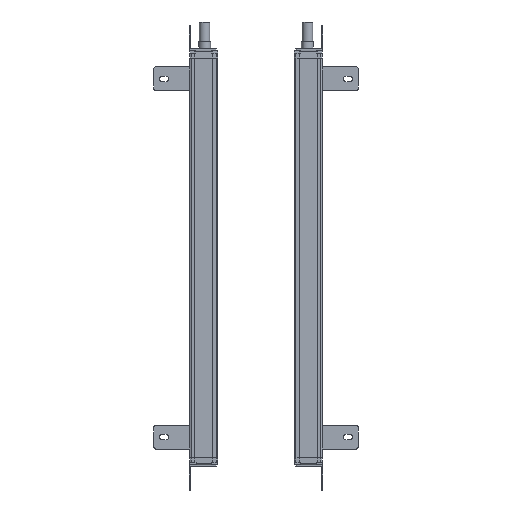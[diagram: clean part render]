
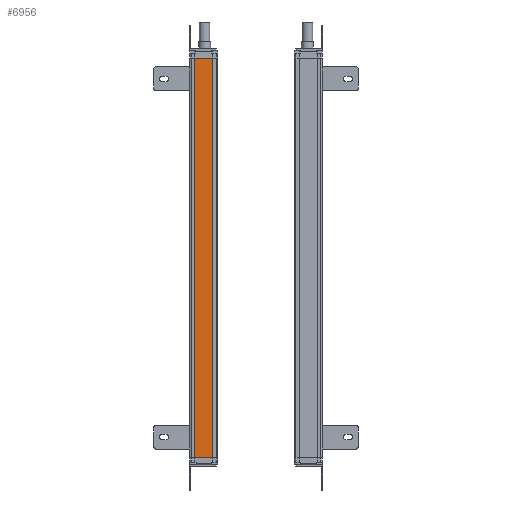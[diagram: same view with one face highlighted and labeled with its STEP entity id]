
A CAD part, left-side view. The second image highlights one B-rep face of the part: STEP entity #6956.
In plain terms, the highlighted planar face has unit normal (-1, 0, 0).
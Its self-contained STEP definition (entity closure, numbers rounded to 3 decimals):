
#953=FACE_OUTER_BOUND('',#9034,.T.);
#2188=LINE('',#33710,#4326);
#2290=LINE('',#34050,#4428);
#2291=LINE('',#34052,#4429);
#2292=LINE('',#34054,#4430);
#4326=VECTOR('',#26897,1.);
#4428=VECTOR('',#27185,1.);
#4429=VECTOR('',#27188,1.);
#4430=VECTOR('',#27189,1.);
#6178=PLANE('',#23723);
#6956=ADVANCED_FACE('',(#953),#6178,.T.);
#9034=EDGE_LOOP('',(#11681,#11682,#11683,#11684));
#11681=ORIENTED_EDGE('',*,*,#19828,.F.);
#11682=ORIENTED_EDGE('',*,*,#19829,.T.);
#11683=ORIENTED_EDGE('',*,*,#19830,.T.);
#11684=ORIENTED_EDGE('',*,*,#19658,.F.);
#17203=VERTEX_POINT('',#33709);
#17204=VERTEX_POINT('',#33711);
#17348=VERTEX_POINT('',#34049);
#17349=VERTEX_POINT('',#34053);
#19658=EDGE_CURVE('',#17203,#17204,#2188,.T.);
#19828=EDGE_CURVE('',#17348,#17203,#2290,.T.);
#19829=EDGE_CURVE('',#17348,#17349,#2291,.T.);
#19830=EDGE_CURVE('',#17349,#17204,#2292,.T.);
#23723=AXIS2_PLACEMENT_3D('',#34055,#27190,#27191);
#26897=DIRECTION('',(0.,-1.,0.));
#27185=DIRECTION('',(0.,0.,1.));
#27188=DIRECTION('',(0.,-1.,0.));
#27189=DIRECTION('',(0.,0.,1.));
#27190=DIRECTION('',(-1.,0.,0.));
#27191=DIRECTION('',(0.,-1.,0.));
#33709=CARTESIAN_POINT('',(233.846,104.141,31.645));
#33710=CARTESIAN_POINT('',(233.846,81.141,31.645));
#33711=CARTESIAN_POINT('',(233.846,81.141,31.645));
#34049=CARTESIAN_POINT('',(233.846,104.141,-473.355));
#34050=CARTESIAN_POINT('',(233.846,104.141,-155.355));
#34052=CARTESIAN_POINT('',(233.846,81.141,-473.355));
#34053=CARTESIAN_POINT('',(233.846,81.141,-473.355));
#34054=CARTESIAN_POINT('',(233.846,81.141,-155.355));
#34055=CARTESIAN_POINT('',(233.846,81.141,-50.355));
